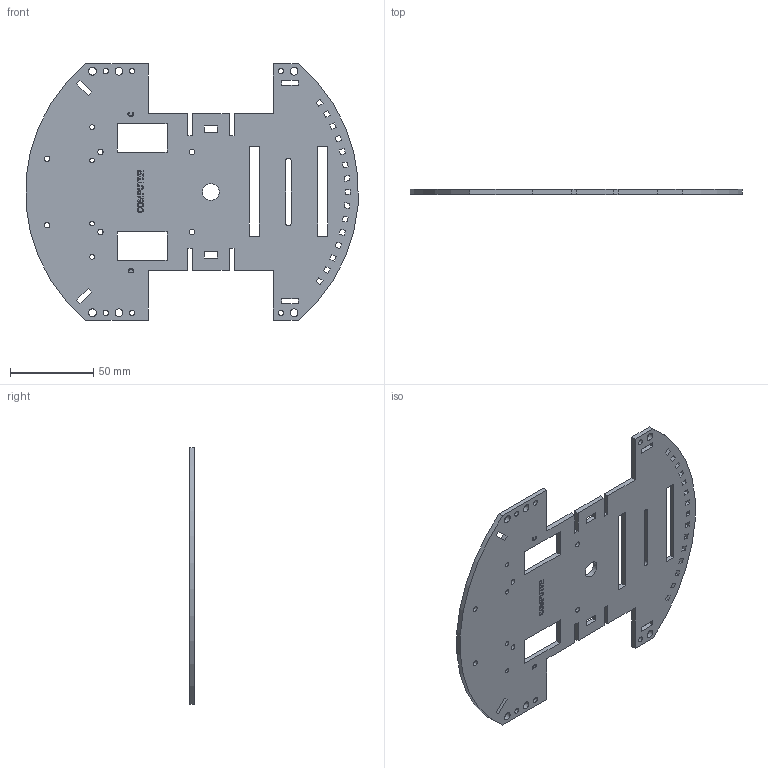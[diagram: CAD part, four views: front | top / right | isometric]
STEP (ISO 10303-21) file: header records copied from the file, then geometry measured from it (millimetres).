
FILE_DESCRIPTION(('FreeCAD Model'),'2;1');
FILE_NAME('Open CASCADE Shape Model','2024-06-26T11:40:29',('FreeCAD'),( 'FreeCAD'),'Open CASCADE STEP processor 7.6','FreeCAD','Unknown');
FILE_SCHEMA(('AUTOMOTIVE_DESIGN { 1 0 10303 214 1 1 1 1 }'));
Length unit declared in the file: millimetre
Products named in the file (1): Open CASCADE STEP translator 7.6 12
Bounding box: 199.36 x 3 x 154 mm (x, y, z)
Volume: 60937.5 mm3; surface area: 46506.9 mm2
Topology: 1 solids, 1 shells, 389 faces, 1119 edges, 746 vertices
Faces by surface type: plane 211, extrusion 151, cylinder 27
Full cylindrical faces by diameter (mm): 2.75 x4, 3.2 x12, 4.7 x6, 10 x1
Entity records: 13035 total; most frequent: CARTESIAN_POINT 3161, ORIENTED_EDGE 2238, DIRECTION 1500, EDGE_CURVE 1119, VECTOR 914, LINE 763, VERTEX_POINT 746, FACE_BOUND 501
